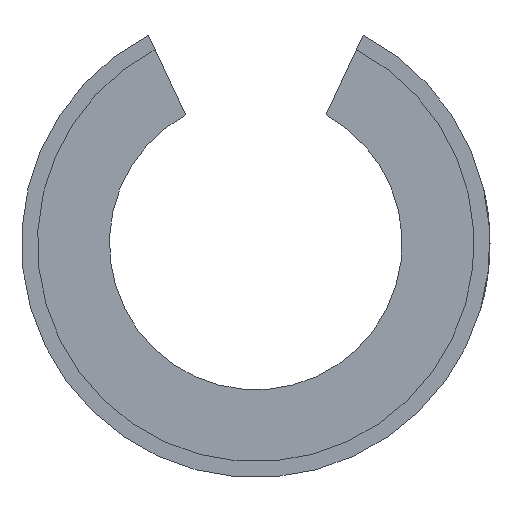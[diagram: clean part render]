
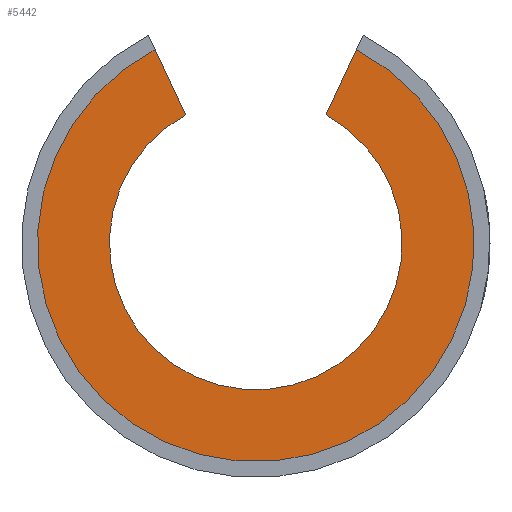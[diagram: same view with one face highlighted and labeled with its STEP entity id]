
A CAD part, left-side view. The second image highlights one B-rep face of the part: STEP entity #5442.
In plain terms, the highlighted planar face has unit normal (-1, 0, 0).
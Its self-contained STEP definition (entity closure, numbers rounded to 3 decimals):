
#126=PLANE('',#5865);
#360=CIRCLE('',#5840,12.5);
#373=CIRCLE('',#5866,18.644);
#564=LINE('',#8573,#1030);
#565=LINE('',#8577,#1031);
#1030=VECTOR('',#6468,1000.);
#1031=VECTOR('',#6471,1000.);
#1679=ORIENTED_EDGE('',*,*,#3280,.T.);
#1680=ORIENTED_EDGE('',*,*,#3318,.T.);
#1681=ORIENTED_EDGE('',*,*,#3319,.F.);
#1682=ORIENTED_EDGE('',*,*,#3320,.T.);
#3280=EDGE_CURVE('',#4107,#4106,#360,.F.);
#3318=EDGE_CURVE('',#4106,#4131,#564,.T.);
#3319=EDGE_CURVE('',#4132,#4131,#373,.T.);
#3320=EDGE_CURVE('',#4132,#4107,#565,.T.);
#4106=VERTEX_POINT('',#8497);
#4107=VERTEX_POINT('',#8499);
#4131=VERTEX_POINT('',#8574);
#4132=VERTEX_POINT('',#8576);
#4666=EDGE_LOOP('',(#1679,#1680,#1681,#1682));
#5045=FACE_BOUND('',#4666,.T.);
#5442=ADVANCED_FACE('',(#5045),#126,.T.);
#5840=AXIS2_PLACEMENT_3D('',#8498,#6391,#6392);
#5865=AXIS2_PLACEMENT_3D('',#8572,#6466,#6467);
#5866=AXIS2_PLACEMENT_3D('',#8575,#6469,#6470);
#6391=DIRECTION('',(-1.,0.,0.));
#6392=DIRECTION('',(0.,0.,1.));
#6466=DIRECTION('',(-1.,0.,0.));
#6467=DIRECTION('',(0.,0.,-1.));
#6468=DIRECTION('',(0.,0.423,0.906));
#6469=DIRECTION('',(1.,0.,0.));
#6470=DIRECTION('',(0.,0.,-1.));
#6471=DIRECTION('',(0.,0.423,-0.906));
#8497=CARTESIAN_POINT('',(-28.,6.,10.966));
#8498=CARTESIAN_POINT('',(-28.,0.,0.));
#8499=CARTESIAN_POINT('',(-28.,-6.,10.966));
#8572=CARTESIAN_POINT('',(-28.,0.,0.));
#8573=CARTESIAN_POINT('',(-28.,6.,10.966));
#8574=CARTESIAN_POINT('',(-28.,8.6,16.542));
#8575=CARTESIAN_POINT('',(-28.,0.,0.));
#8576=CARTESIAN_POINT('',(-28.,-8.6,16.542));
#8577=CARTESIAN_POINT('',(-28.,-6.,10.966));
